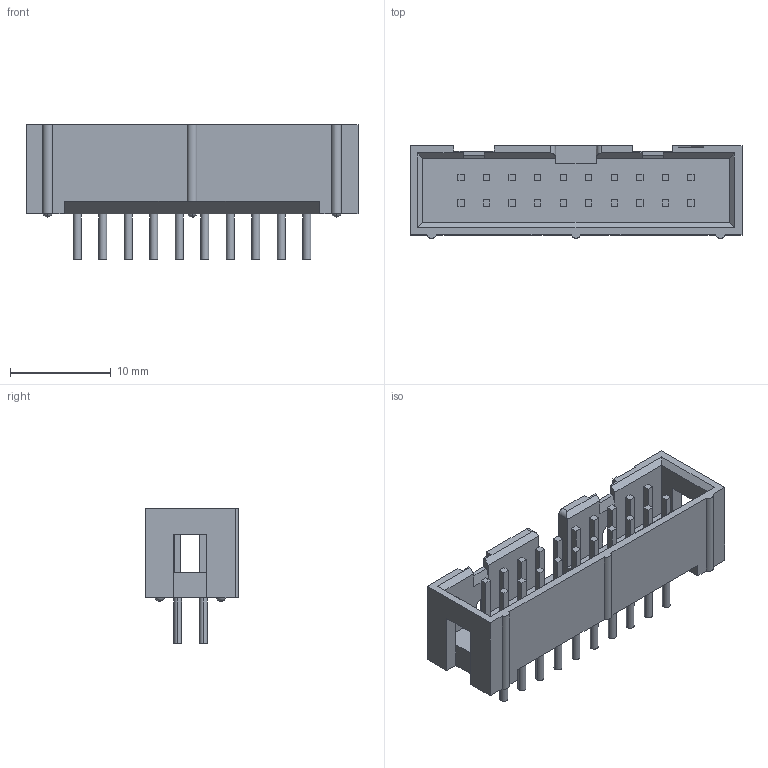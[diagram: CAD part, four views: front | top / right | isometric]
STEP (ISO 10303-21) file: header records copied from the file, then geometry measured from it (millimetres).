
FILE_DESCRIPTION(('STEP AP242'),'1');
FILE_NAME('2-1761679-7.stp','2022-08-05T14:55:23',('TraceParts'),('TraceParts S.A.'),'Spatial InterOp 3D',' ',' ');
FILE_SCHEMA(('AP242_MANAGED_MODEL_BASED_3D_ENGINEERING_MIM_LF {1 0 10303 442 1 1 4}'));
Length unit declared in the file: millimetre
Products named in the file (1): 2-1761679-7
Bounding box: 33.02 x 9.22 x 13.41 mm (x, y, z)
Volume: 1274.2 mm3; surface area: 2260.2 mm2
Topology: 1 solids, 1 shells, 246 faces, 620 edges, 403 vertices
Faces by surface type: plane 189, cylinder 47, sphere 10
Entity records: 7279 total; most frequent: CARTESIAN_POINT 1274, ORIENTED_EDGE 1220, DIRECTION 1214, EDGE_CURVE 610, LINE 496, VECTOR 496, VERTEX_POINT 403, AXIS2_PLACEMENT_3D 359
